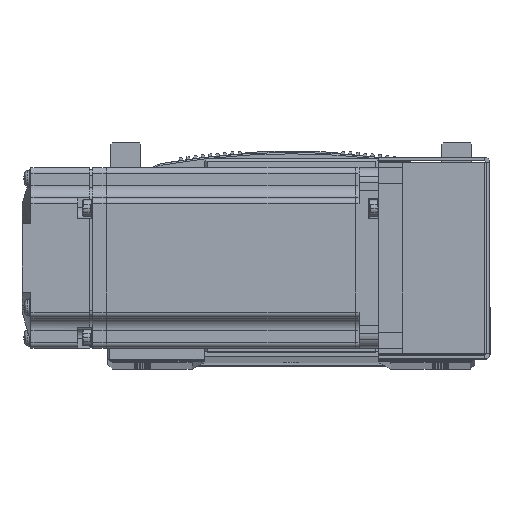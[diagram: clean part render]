
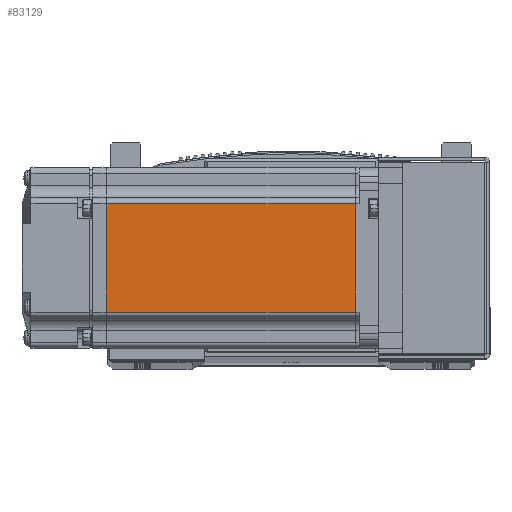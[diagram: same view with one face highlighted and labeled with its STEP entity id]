
A CAD part, top view. The second image highlights one B-rep face of the part: STEP entity #83129.
In plain terms, the highlighted planar face has unit normal (0, 0, 1) as drawn and (0, 1, 0) by its records, which use the part's own axes.
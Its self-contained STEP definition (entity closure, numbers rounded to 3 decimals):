
#7148 = EDGE_LOOP ( 'NONE', ( #73020, #72826, #73121, #72782 ) ) ;
#14582 = DIRECTION ( 'NONE',  ( 0., 1., 0. ) ) ;
#14645 = PLANE ( 'NONE',  #63898 ) ;
#14676 = CARTESIAN_POINT ( 'NONE',  ( -6.5, 30., 25. ) ) ;
#14680 = DIRECTION ( 'NONE',  ( 0., 0., 1. ) ) ;
#24108 = CARTESIAN_POINT ( 'NONE',  ( -90.45, 30., 18. ) ) ;
#24134 = CARTESIAN_POINT ( 'NONE',  ( -7.75, 30., 18. ) ) ;
#24161 = CARTESIAN_POINT ( 'NONE',  ( -90.45, 30., -18. ) ) ;
#24316 = CARTESIAN_POINT ( 'NONE',  ( -7.75, 30., -18. ) ) ;
#29783 = LINE ( 'NONE', #45369, #29802 ) ;
#29802 = VECTOR ( 'NONE', #45380, 1000. ) ;
#31940 = LINE ( 'NONE', #45290, #32133 ) ;
#32133 = VECTOR ( 'NONE', #45342, 1000. ) ;
#32369 = LINE ( 'NONE', #45116, #32370 ) ;
#32370 = VECTOR ( 'NONE', #45092, 1000. ) ;
#32479 = VECTOR ( 'NONE', #45213, 1000. ) ;
#32504 = LINE ( 'NONE', #45247, #32479 ) ;
#45092 = DIRECTION ( 'NONE',  ( 1., 0., 0. ) ) ;
#45116 = CARTESIAN_POINT ( 'NONE',  ( -6.5, 30., 18. ) ) ;
#45213 = DIRECTION ( 'NONE',  ( -1., 0., 0. ) ) ;
#45247 = CARTESIAN_POINT ( 'NONE',  ( -6.5, 30., -18. ) ) ;
#45290 = CARTESIAN_POINT ( 'NONE',  ( -90.45, 30., 0. ) ) ;
#45342 = DIRECTION ( 'NONE',  ( 0., 0., 1. ) ) ;
#45369 = CARTESIAN_POINT ( 'NONE',  ( -7.75, 30., 0. ) ) ;
#45380 = DIRECTION ( 'NONE',  ( 0., 0., 1. ) ) ;
#62582 = EDGE_CURVE ( 'NONE', #79487, #79692, #32369, .T. ) ;
#62630 = EDGE_CURVE ( 'NONE', #79753, #79642, #32504, .T. ) ;
#62667 = EDGE_CURVE ( 'NONE', #79642, #79487, #31940, .T. ) ;
#62688 = EDGE_CURVE ( 'NONE', #79753, #79692, #29783, .T. ) ;
#63898 = AXIS2_PLACEMENT_3D ( 'NONE', #14676, #14582, #14680 ) ;
#72782 = ORIENTED_EDGE ( 'NONE', *, *, #62582, .T. ) ;
#72826 = ORIENTED_EDGE ( 'NONE', *, *, #62630, .T. ) ;
#73020 = ORIENTED_EDGE ( 'NONE', *, *, #62688, .F. ) ;
#73121 = ORIENTED_EDGE ( 'NONE', *, *, #62667, .T. ) ;
#79487 = VERTEX_POINT ( 'NONE', #24108 ) ;
#79642 = VERTEX_POINT ( 'NONE', #24161 ) ;
#79692 = VERTEX_POINT ( 'NONE', #24134 ) ;
#79753 = VERTEX_POINT ( 'NONE', #24316 ) ;
#83129 = ADVANCED_FACE ( 'NONE', ( #89133 ), #14645, .T. ) ;
#89133 = FACE_OUTER_BOUND ( 'NONE', #7148, .T. ) ;
